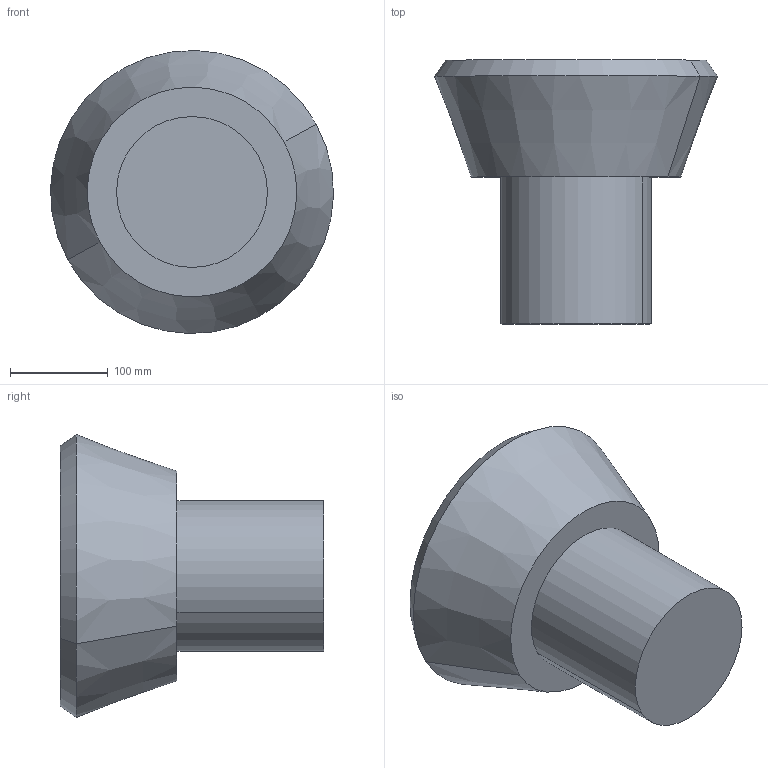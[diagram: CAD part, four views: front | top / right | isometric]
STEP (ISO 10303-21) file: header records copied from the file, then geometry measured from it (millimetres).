
FILE_DESCRIPTION(('CATIA V5 STEP Exchange'),'2;1');
FILE_NAME('C:\_Andres\UNIVERSIDAD\IQS\ASIGNATURAS\DAO\EXF\EXF-15161c\1original\Pañella_Caminero_Ej09-optimiza_v17.stp','2016-03-04T21:55:29+00:00',('none'),('none'),'CATIA Version 5 Release 20 SP 1 (IN-10)','CATIA V5 STEP AP203','none');
FILE_SCHEMA(('CONFIG_CONTROL_DESIGN'));
Length unit declared in the file: millimetre
Products named in the file (1): Pañella_Caminero_Ej09-optimiza_v17
Bounding box: 288.87 x 269.34 x 288.87 mm (x, y, z)
Volume: 8917915 mm3; surface area: 272504.6 mm2
Topology: 1 solids, 2 shells, 13 faces, 22 edges, 14 vertices
Faces by surface type: plane 5, cylinder 4, cone 4
Entity records: 324 total; most frequent: CARTESIAN_POINT 47, ORIENTED_EDGE 44, DIRECTION 42, AXIS2_PLACEMENT_3D 25, EDGE_CURVE 22, CIRCLE 14, EDGE_LOOP 14, VERTEX_POINT 14
